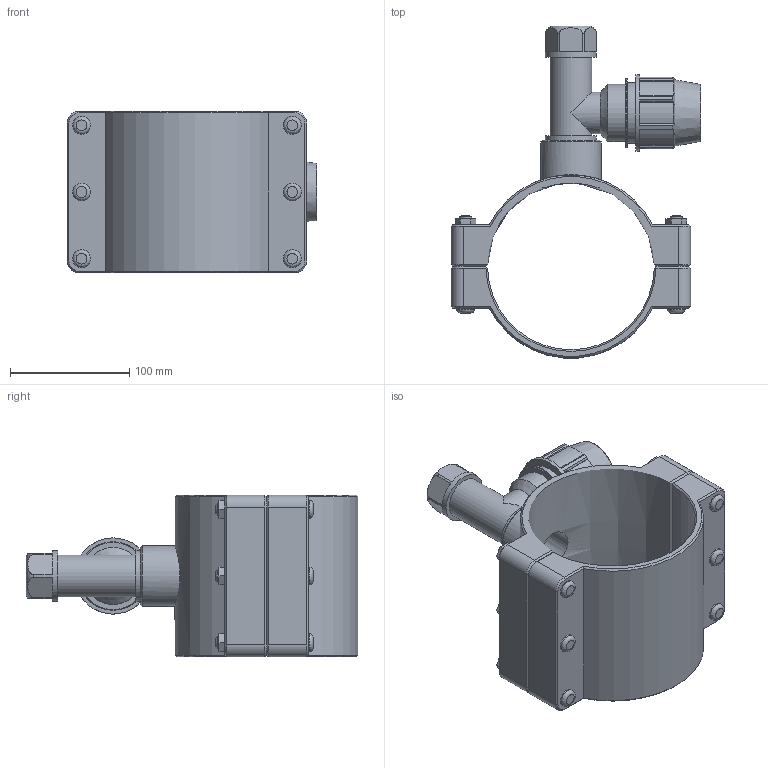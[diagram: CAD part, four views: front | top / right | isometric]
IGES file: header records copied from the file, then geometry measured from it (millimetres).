
Global section: file name: 165400140032_165406140032.ipt; native system: Autodesk Inventor 2015; preprocessor: unknown; author: KIM; date: 20170618.093944; units: millimetre
Bounding box: 209.5 x 278.73 x 136 mm (x, y, z)
Volume: 1140907.8 mm3; surface area: 229177.1 mm2
Topology: 1 solids, 1 shells, 260 faces, 648 edges, 422 vertices
Faces by surface type: plane 163, cylinder 48, cone 30, revolution 19
Full cylindrical faces by diameter (mm): 10 x6, 15 x12, 35.057 x2, 38.952 x1, 42.847 x2, 48 x1, 50.638 x1, 51.2 x1, 57.6 x1, 64 x1
